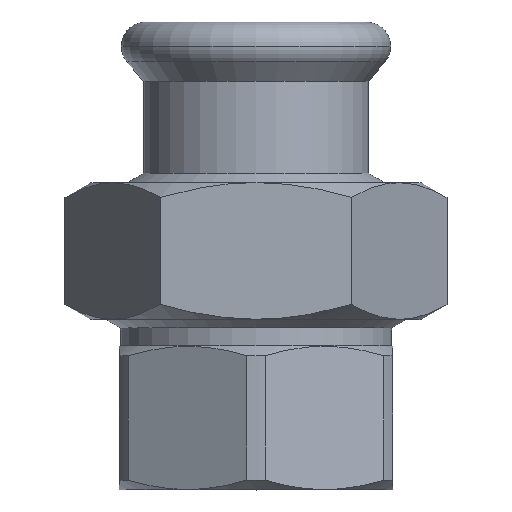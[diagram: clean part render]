
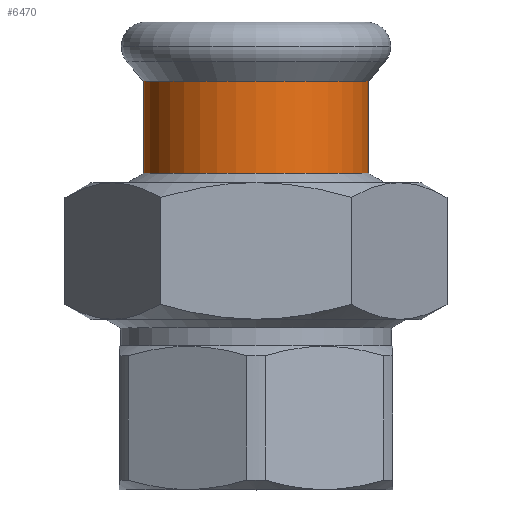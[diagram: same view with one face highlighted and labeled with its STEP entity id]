
A CAD part, top view. The second image highlights one B-rep face of the part: STEP entity #6470.
In plain terms, the highlighted cylindrical face has radius 15.65 mm (diameter 31.3 mm), a partial arc.
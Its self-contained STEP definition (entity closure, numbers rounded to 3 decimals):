
#1260=CARTESIAN_POINT('',(492.894,46.033,
0.));
#1270=VERTEX_POINT('',#1260);
#1450=CARTESIAN_POINT('',(461.594,46.033,0.));
#1460=VERTEX_POINT('',#1450);
#1490=CARTESIAN_POINT('',(477.244,46.033,0.));
#1500=DIRECTION('',(0.,-1.,0.));
#1510=DIRECTION('',(-1.,0.,0.));
#1520=AXIS2_PLACEMENT_3D('',#1490,#1500,#1510);
#1530=CIRCLE('',#1520,15.65);
#1540=EDGE_CURVE('',#1270,#1460,#1530,.T.);
#5920=CARTESIAN_POINT('',(492.894,58.827,0.));
#5930=VERTEX_POINT('',#5920);
#6110=CARTESIAN_POINT('',(461.594,58.827,
0.));
#6120=VERTEX_POINT('',#6110);
#6150=CARTESIAN_POINT('',(477.244,58.827,0.));
#6160=DIRECTION('',(0.,1.,0.));
#6170=DIRECTION('',(-1.,0.,0.));
#6180=AXIS2_PLACEMENT_3D('',#6150,#6160,#6170);
#6190=CIRCLE('',#6180,15.65);
#6250=CARTESIAN_POINT('',(477.244,51.021,0.));
#6260=DIRECTION('',(0.,-1.,0.));
#6270=DIRECTION('',(-1.,0.,0.));
#6280=AXIS2_PLACEMENT_3D('',#6250,#6260,#6270);
#6290=CYLINDRICAL_SURFACE('',#6280,15.65);
#6300=CARTESIAN_POINT('',(461.594,51.021,0.));
#6310=DIRECTION('',(0.,-1.,0.));
#6320=VECTOR('',#6310,1.);
#6330=LINE('',#6300,#6320);
#6340=EDGE_CURVE('',#6120,#1460,#6330,.T.);
#6350=ORIENTED_EDGE('',*,*,#6340,.T.);
#6360=EDGE_CURVE('',#6120,#5930,#6190,.T.);
#6370=ORIENTED_EDGE('',*,*,#6360,.F.);
#6380=CARTESIAN_POINT('',(492.894,51.021,
0.));
#6390=DIRECTION('',(0.,-1.,0.));
#6400=VECTOR('',#6390,1.);
#6410=LINE('',#6380,#6400);
#6420=EDGE_CURVE('',#5930,#1270,#6410,.T.);
#6430=ORIENTED_EDGE('',*,*,#6420,.F.);
#6440=ORIENTED_EDGE('',*,*,#1540,.F.);
#6450=EDGE_LOOP('',(#6440,#6430,#6370,#6350));
#6460=FACE_OUTER_BOUND('',#6450,.T.);
#6470=ADVANCED_FACE('',(#6460),#6290,.T.);
